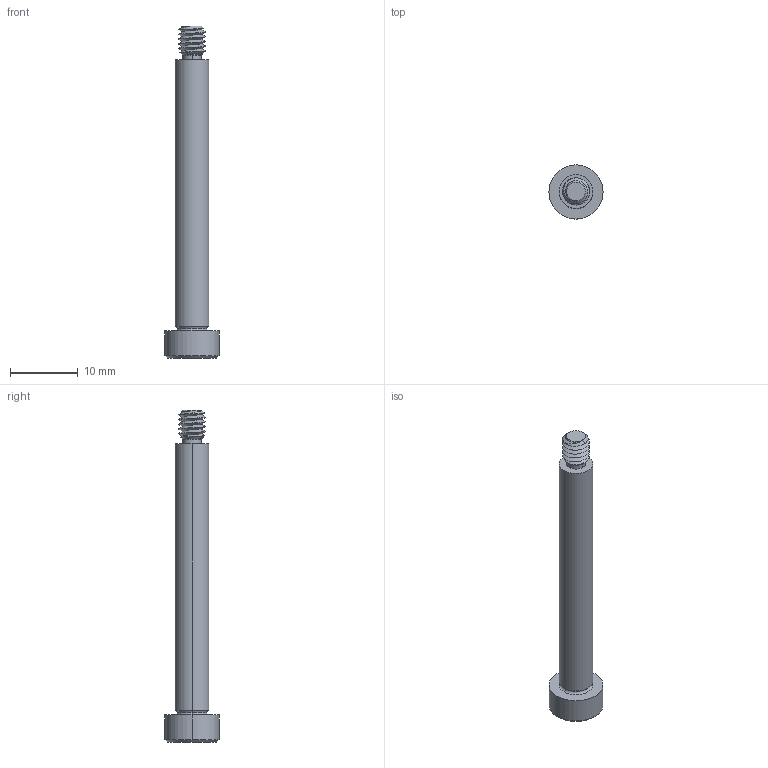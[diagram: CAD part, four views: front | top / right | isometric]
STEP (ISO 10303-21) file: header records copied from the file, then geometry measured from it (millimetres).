
FILE_DESCRIPTION (( 'STEP AP203' ), '1' );
FILE_NAME ('P0130.050-040-B2.step', '2021-11-09T21:18:01', ( '' ), ( '' ), 'SwSTEP 2.0', 'SolidWorks 2019', '' );
FILE_SCHEMA (( 'CONFIG_CONTROL_DESIGN' ));
Length unit declared in the file: millimetre
Products named in the file (1): P0130.050-040-B2
Bounding box: 8 x 8 x 49 mm (x, y, z)
Volume: 1009.5 mm3; surface area: 943.8 mm2
Topology: 1 solids, 1 shells, 53 faces, 121 edges, 71 vertices
Faces by surface type: cylinder 16, plane 16, cone 15, torus 4, bspline 2
Entity records: 2151 total; most frequent: CARTESIAN_POINT 968, ORIENTED_EDGE 238, DIRECTION 226, EDGE_CURVE 119, AXIS2_PLACEMENT_3D 92, VERTEX_POINT 71, EDGE_LOOP 56, FACE_OUTER_BOUND 53
